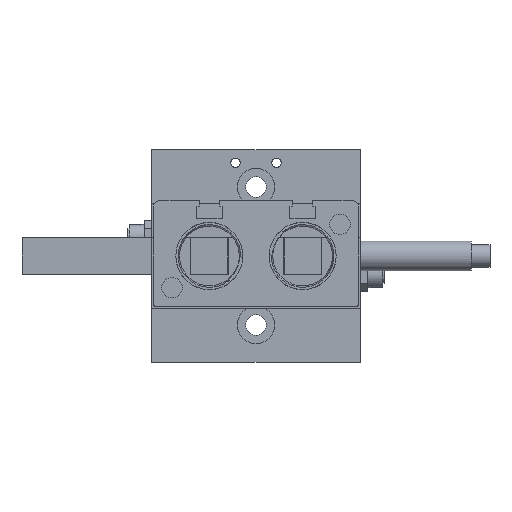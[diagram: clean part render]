
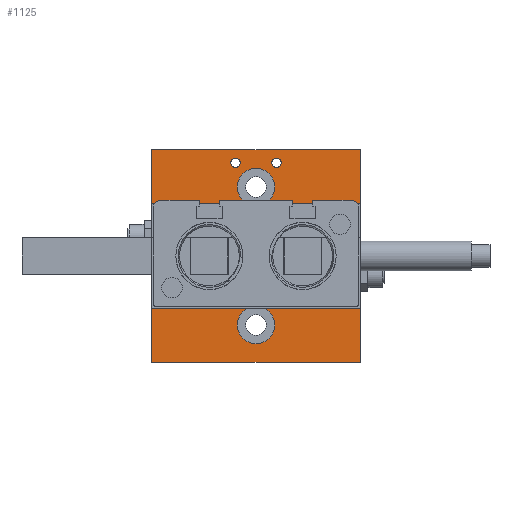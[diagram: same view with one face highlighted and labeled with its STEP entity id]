
A CAD part, front view. The second image highlights one B-rep face of the part: STEP entity #1125.
In plain terms, the highlighted planar face has unit normal (0, -1, 0).
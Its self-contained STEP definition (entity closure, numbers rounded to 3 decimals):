
#1125 = ADVANCED_FACE( '', ( #2476, #2477, #2478, #2479, #2480, #2481, #2482, #2483, #2484 ), #2485, .T. );
#2476 = FACE_BOUND( '', #3990, .T. );
#2477 = FACE_BOUND( '', #3991, .T. );
#2478 = FACE_BOUND( '', #3992, .T. );
#2479 = FACE_BOUND( '', #3993, .T. );
#2480 = FACE_BOUND( '', #3994, .T. );
#2481 = FACE_BOUND( '', #3995, .T. );
#2482 = FACE_BOUND( '', #3996, .T. );
#2483 = FACE_BOUND( '', #3997, .T. );
#2484 = FACE_OUTER_BOUND( '', #3998, .T. );
#2485 = PLANE( '', #3999 );
#3990 = EDGE_LOOP( '', ( #7180 ) );
#3991 = EDGE_LOOP( '', ( #7181 ) );
#3992 = EDGE_LOOP( '', ( #7182 ) );
#3993 = EDGE_LOOP( '', ( #7183 ) );
#3994 = EDGE_LOOP( '', ( #7184 ) );
#3995 = EDGE_LOOP( '', ( #7185 ) );
#3996 = EDGE_LOOP( '', ( #7186 ) );
#3997 = EDGE_LOOP( '', ( #7187 ) );
#3998 = EDGE_LOOP( '', ( #7188, #7189, #7190, #7191 ) );
#3999 = AXIS2_PLACEMENT_3D( '', #7192, #7193, #7194 );
#7180 = ORIENTED_EDGE( '', *, *, #8833, .T. );
#7181 = ORIENTED_EDGE( '', *, *, #8760, .T. );
#7182 = ORIENTED_EDGE( '', *, *, #8840, .T. );
#7183 = ORIENTED_EDGE( '', *, *, #8835, .T. );
#7184 = ORIENTED_EDGE( '', *, *, #9232, .T. );
#7185 = ORIENTED_EDGE( '', *, *, #8464, .T. );
#7186 = ORIENTED_EDGE( '', *, *, #9157, .T. );
#7187 = ORIENTED_EDGE( '', *, *, #9198, .T. );
#7188 = ORIENTED_EDGE( '', *, *, #8601, .T. );
#7189 = ORIENTED_EDGE( '', *, *, #8189, .T. );
#7190 = ORIENTED_EDGE( '', *, *, #8806, .T. );
#7191 = ORIENTED_EDGE( '', *, *, #8740, .T. );
#7192 = CARTESIAN_POINT( '', ( -28., -4.5, -28.5 ) );
#7193 = DIRECTION( '', ( 0., -1., 0. ) );
#7194 = DIRECTION( '', ( 0., 0., -1. ) );
#8189 = EDGE_CURVE( '', #9723, #9728, #9730, .T. );
#8464 = EDGE_CURVE( '', #10189, #10189, #10190, .T. );
#8601 = EDGE_CURVE( '', #10413, #9723, #10414, .T. );
#8740 = EDGE_CURVE( '', #10614, #10413, #10615, .T. );
#8760 = EDGE_CURVE( '', #10645, #10645, #10646, .T. );
#8806 = EDGE_CURVE( '', #9728, #10614, #10707, .T. );
#8833 = EDGE_CURVE( '', #10745, #10745, #10746, .T. );
#8835 = EDGE_CURVE( '', #10748, #10748, #10749, .T. );
#8840 = EDGE_CURVE( '', #10755, #10755, #10756, .T. );
#9157 = EDGE_CURVE( '', #11183, #11183, #11184, .T. );
#9198 = EDGE_CURVE( '', #11234, #11234, #11235, .T. );
#9232 = EDGE_CURVE( '', #11275, #11275, #11276, .T. );
#9723 = VERTEX_POINT( '', #12091 );
#9728 = VERTEX_POINT( '', #12098 );
#9730 = LINE( '', #12101, #12102 );
#10189 = VERTEX_POINT( '', #12870 );
#10190 = CIRCLE( '', #12871, 1.23 );
#10413 = VERTEX_POINT( '', #13225 );
#10414 = LINE( '', #13226, #13227 );
#10614 = VERTEX_POINT( '', #13552 );
#10615 = LINE( '', #13553, #13554 );
#10645 = VERTEX_POINT( '', #13591 );
#10646 = CIRCLE( '', #13592, 5. );
#10707 = LINE( '', #13690, #13691 );
#10745 = VERTEX_POINT( '', #13741 );
#10746 = CIRCLE( '', #13742, 5. );
#10748 = VERTEX_POINT( '', #13744 );
#10749 = CIRCLE( '', #13745, 1.23 );
#10755 = VERTEX_POINT( '', #13752 );
#10756 = CIRCLE( '', #13753, 1.23 );
#11183 = VERTEX_POINT( '', #14563 );
#11184 = CIRCLE( '', #14564, 2.25 );
#11234 = VERTEX_POINT( '', #14666 );
#11235 = CIRCLE( '', #14667, 2.25 );
#11275 = VERTEX_POINT( '', #14815 );
#11276 = CIRCLE( '', #14816, 1.23 );
#12091 = CARTESIAN_POINT( '', ( -28., -4.5, -28.5 ) );
#12098 = CARTESIAN_POINT( '', ( 28., -4.5, -28.5 ) );
#12101 = CARTESIAN_POINT( '', ( -28., -4.5, -28.5 ) );
#12102 = VECTOR( '', #15335, 1000. );
#12870 = CARTESIAN_POINT( '', ( 5.5, -4.5, 5.771 ) );
#12871 = AXIS2_PLACEMENT_3D( '', #15686, #15687, #15688 );
#13225 = CARTESIAN_POINT( '', ( -28., -4.5, 28.5 ) );
#13226 = CARTESIAN_POINT( '', ( -28., -4.5, 28.5 ) );
#13227 = VECTOR( '', #15860, 1000. );
#13552 = CARTESIAN_POINT( '', ( 28., -4.5, 28.5 ) );
#13553 = CARTESIAN_POINT( '', ( 28., -4.5, 28.5 ) );
#13554 = VECTOR( '', #16022, 1000. );
#13591 = CARTESIAN_POINT( '', ( 0., -4.5, 13.5 ) );
#13592 = AXIS2_PLACEMENT_3D( '', #16057, #16058, #16059 );
#13690 = CARTESIAN_POINT( '', ( 28., -4.5, -28.5 ) );
#13691 = VECTOR( '', #16102, 1000. );
#13741 = CARTESIAN_POINT( '', ( 0., -4.5, -23.5 ) );
#13742 = AXIS2_PLACEMENT_3D( '', #16133, #16134, #16135 );
#13744 = CARTESIAN_POINT( '', ( -5.5, -4.5, 23.771 ) );
#13745 = AXIS2_PLACEMENT_3D( '', #16136, #16137, #16138 );
#13752 = CARTESIAN_POINT( '', ( -5.5, -4.5, 5.771 ) );
#13753 = AXIS2_PLACEMENT_3D( '', #16143, #16144, #16145 );
#14563 = CARTESIAN_POINT( '', ( -24., -4.5, 10.25 ) );
#14564 = AXIS2_PLACEMENT_3D( '', #16481, #16482, #16483 );
#14666 = CARTESIAN_POINT( '', ( 24., -4.5, 10.25 ) );
#14667 = AXIS2_PLACEMENT_3D( '', #16515, #16516, #16517 );
#14815 = CARTESIAN_POINT( '', ( 5.5, -4.5, 23.771 ) );
#14816 = AXIS2_PLACEMENT_3D( '', #16549, #16550, #16551 );
#15335 = DIRECTION( '', ( 1., 0., 0. ) );
#15686 = CARTESIAN_POINT( '', ( 5.5, -4.5, 7. ) );
#15687 = DIRECTION( '', ( 0., 1., 0. ) );
#15688 = DIRECTION( '', ( 0., 0., -1. ) );
#15860 = DIRECTION( '', ( 0., 0., -1. ) );
#16022 = DIRECTION( '', ( -1., 0., 0. ) );
#16057 = CARTESIAN_POINT( '', ( 0., -4.5, 18.5 ) );
#16058 = DIRECTION( '', ( 0., 1., 0. ) );
#16059 = DIRECTION( '', ( 0., 0., -1. ) );
#16102 = DIRECTION( '', ( 0., 0., 1. ) );
#16133 = CARTESIAN_POINT( '', ( 0., -4.5, -18.5 ) );
#16134 = DIRECTION( '', ( 0., 1., 0. ) );
#16135 = DIRECTION( '', ( 0., 0., -1. ) );
#16136 = CARTESIAN_POINT( '', ( -5.5, -4.5, 25. ) );
#16137 = DIRECTION( '', ( 0., 1., 0. ) );
#16138 = DIRECTION( '', ( 0., 0., -1. ) );
#16143 = CARTESIAN_POINT( '', ( -5.5, -4.5, 7. ) );
#16144 = DIRECTION( '', ( 0., 1., 0. ) );
#16145 = DIRECTION( '', ( 0., 0., -1. ) );
#16481 = CARTESIAN_POINT( '', ( -24., -4.5, 12.5 ) );
#16482 = DIRECTION( '', ( 0., 1., 0. ) );
#16483 = DIRECTION( '', ( 0., 0., -1. ) );
#16515 = CARTESIAN_POINT( '', ( 24., -4.5, 12.5 ) );
#16516 = DIRECTION( '', ( 0., 1., 0. ) );
#16517 = DIRECTION( '', ( 0., 0., -1. ) );
#16549 = CARTESIAN_POINT( '', ( 5.5, -4.5, 25. ) );
#16550 = DIRECTION( '', ( 0., 1., 0. ) );
#16551 = DIRECTION( '', ( 0., 0., -1. ) );
